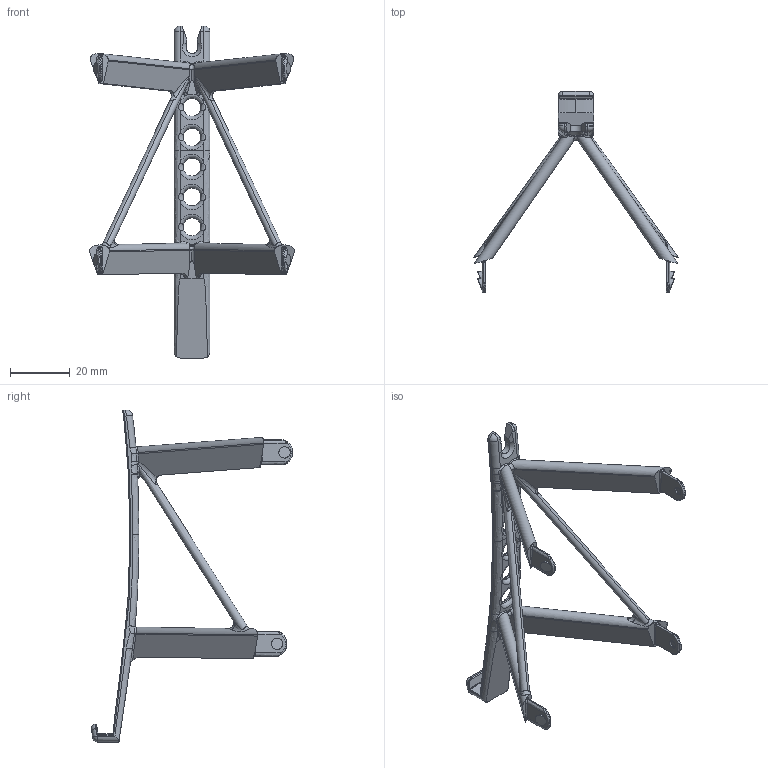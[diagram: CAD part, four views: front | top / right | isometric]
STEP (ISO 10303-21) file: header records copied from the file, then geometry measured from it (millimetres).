
FILE_DESCRIPTION (( 'STEP AP203' ), '1' );
FILE_NAME ('06-12-036-00 (Cabane).STEP', '2019-02-25T09:09:28', ( '' ), ( '' ), 'SwSTEP 2.0', 'SolidWorks 2014', '' );
FILE_SCHEMA (( 'CONFIG_CONTROL_DESIGN' ));
Length unit declared in the file: millimetre
Products named in the file (1): 06-12-036-00 (Cabane)
Bounding box: 68.56 x 67.39 x 111.01 mm (x, y, z)
Volume: 10087.3 mm3; surface area: 9947.8 mm2
Topology: 1 solids, 1 shells, 365 faces, 925 edges, 562 vertices
Faces by surface type: bspline 187, cylinder 97, plane 48, torus 28, sphere 5
Entity records: 20033 total; most frequent: CARTESIAN_POINT 12814, ORIENTED_EDGE 1838, DIRECTION 1035, EDGE_CURVE 919, VERTEX_POINT 560, AXIS2_PLACEMENT_3D 438, B_SPLINE_CURVE_WITH_KNOTS 431, EDGE_LOOP 383
